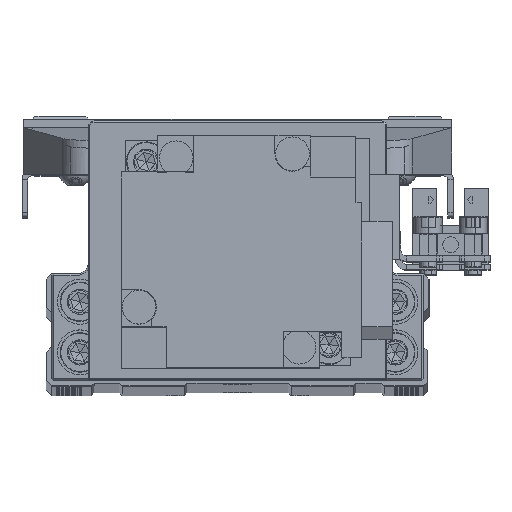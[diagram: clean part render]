
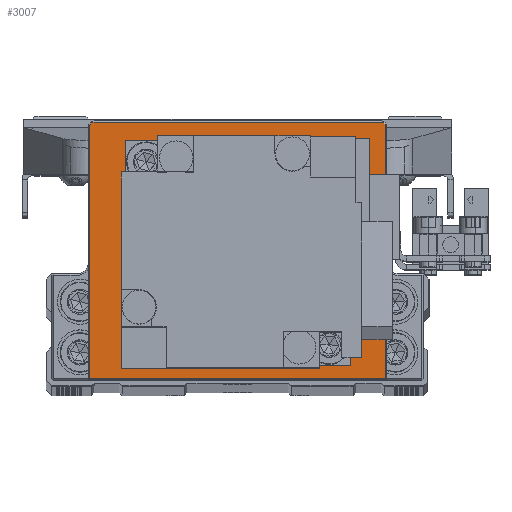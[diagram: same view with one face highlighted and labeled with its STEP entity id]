
A CAD part, top view. The second image highlights one B-rep face of the part: STEP entity #3007.
In plain terms, the highlighted planar face has unit normal (0, 0, 1) as drawn and (0, -1, 0) by its records, which use the part's own axes.
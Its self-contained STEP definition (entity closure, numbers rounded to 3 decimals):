
#94 = EDGE_CURVE ( 'NONE', #29022, #11541, #361, .T. ) ;
#361 = LINE ( 'NONE', #13211, #12186 ) ;
#473 = ORIENTED_EDGE ( 'NONE', *, *, #12385, .T. ) ;
#2660 = CARTESIAN_POINT ( 'NONE',  ( -25.5, -4., 22. ) ) ;
#3007 = ADVANCED_FACE ( 'NONE', ( #19032 ), #31830, .T. ) ;
#3029 = CARTESIAN_POINT ( 'NONE',  ( 0., -4., 0. ) ) ;
#4361 = EDGE_CURVE ( 'NONE', #11541, #19764, #26505, .T. ) ;
#4640 = EDGE_CURVE ( 'NONE', #11812, #6805, #15993, .T. ) ;
#5968 = DIRECTION ( 'NONE',  ( 0., -1., 0. ) ) ;
#6643 = VERTEX_POINT ( 'NONE', #13616 ) ;
#6715 = CARTESIAN_POINT ( 'NONE',  ( 26.3, -4., -22.8 ) ) ;
#6805 = VERTEX_POINT ( 'NONE', #33960 ) ;
#6848 = CIRCLE ( 'NONE', #30331, 0.8 ) ;
#8779 = CARTESIAN_POINT ( 'NONE',  ( 26.3, -4., 22. ) ) ;
#10550 = DIRECTION ( 'NONE',  ( 1., 0., 0. ) ) ;
#11176 = ORIENTED_EDGE ( 'NONE', *, *, #11603, .T. ) ;
#11541 = VERTEX_POINT ( 'NONE', #34365 ) ;
#11603 = EDGE_CURVE ( 'NONE', #6643, #11812, #31051, .T. ) ;
#11812 = VERTEX_POINT ( 'NONE', #40113 ) ;
#12186 = VECTOR ( 'NONE', #25978, 1000. ) ;
#12385 = EDGE_CURVE ( 'NONE', #19764, #6643, #37537, .T. ) ;
#12583 = ORIENTED_EDGE ( 'NONE', *, *, #4361, .T. ) ;
#12835 = ORIENTED_EDGE ( 'NONE', *, *, #4640, .T. ) ;
#12963 = AXIS2_PLACEMENT_3D ( 'NONE', #34767, #5968, #18809 ) ;
#13211 = CARTESIAN_POINT ( 'NONE',  ( -26.3, -4., -23. ) ) ;
#13483 = DIRECTION ( 'NONE',  ( -1., 0., 0. ) ) ;
#13616 = CARTESIAN_POINT ( 'NONE',  ( 26.3, -4., 22. ) ) ;
#13944 = ORIENTED_EDGE ( 'NONE', *, *, #94, .T. ) ;
#15513 = DIRECTION ( 'NONE',  ( 0., -1., 0. ) ) ;
#15872 = DIRECTION ( 'NONE',  ( 0., -1., 0. ) ) ;
#15993 = LINE ( 'NONE', #28781, #38741 ) ;
#17373 = EDGE_LOOP ( 'NONE', ( #12583, #473, #11176, #12835, #23158, #13944 ) ) ;
#18809 = DIRECTION ( 'NONE',  ( 0., 0., -1. ) ) ;
#19032 = FACE_OUTER_BOUND ( 'NONE', #17373, .T. ) ;
#19041 = VECTOR ( 'NONE', #21595, 1000. ) ;
#19601 = AXIS2_PLACEMENT_3D ( 'NONE', #3029, #15872, #28646 ) ;
#19764 = VERTEX_POINT ( 'NONE', #6715 ) ;
#21595 = DIRECTION ( 'NONE',  ( 0., 0., 1. ) ) ;
#21967 = VECTOR ( 'NONE', #10550, 1000. ) ;
#23158 = ORIENTED_EDGE ( 'NONE', *, *, #38104, .T. ) ;
#24190 = CARTESIAN_POINT ( 'NONE',  ( -26.3, -4., 22. ) ) ;
#25978 = DIRECTION ( 'NONE',  ( 0., 0., -1. ) ) ;
#26505 = LINE ( 'NONE', #39327, #21967 ) ;
#28302 = DIRECTION ( 'NONE',  ( 0., 0., -1. ) ) ;
#28646 = DIRECTION ( 'NONE',  ( 0., 0., -1. ) ) ;
#28781 = CARTESIAN_POINT ( 'NONE',  ( -25.5, -4., 22.8 ) ) ;
#29022 = VERTEX_POINT ( 'NONE', #24190 ) ;
#30331 = AXIS2_PLACEMENT_3D ( 'NONE', #2660, #15513, #28302 ) ;
#31051 = CIRCLE ( 'NONE', #12963, 0.8 ) ;
#31830 = PLANE ( 'NONE',  #19601 ) ;
#33960 = CARTESIAN_POINT ( 'NONE',  ( -25.5, -4., 22.8 ) ) ;
#34365 = CARTESIAN_POINT ( 'NONE',  ( -26.3, -4., -22.8 ) ) ;
#34767 = CARTESIAN_POINT ( 'NONE',  ( 25.5, -4., 22. ) ) ;
#37537 = LINE ( 'NONE', #8779, #19041 ) ;
#38104 = EDGE_CURVE ( 'NONE', #6805, #29022, #6848, .T. ) ;
#38741 = VECTOR ( 'NONE', #13483, 1000. ) ;
#39327 = CARTESIAN_POINT ( 'NONE',  ( 26.5, -4., -22.8 ) ) ;
#40113 = CARTESIAN_POINT ( 'NONE',  ( 25.5, -4., 22.8 ) ) ;
